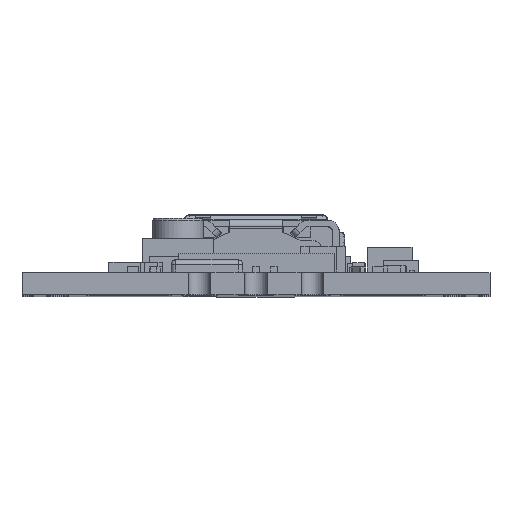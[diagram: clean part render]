
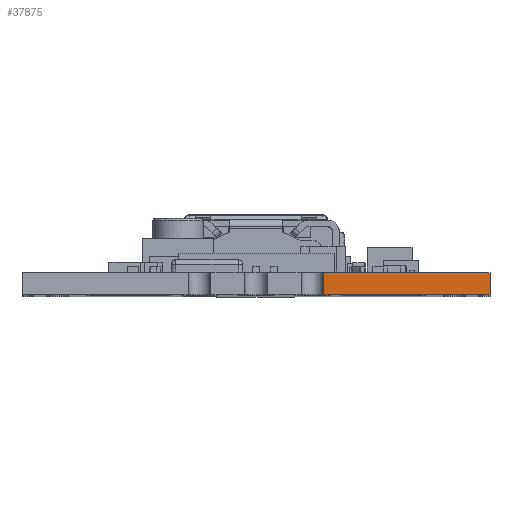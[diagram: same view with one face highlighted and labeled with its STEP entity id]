
A CAD part, top view. The second image highlights one B-rep face of the part: STEP entity #37875.
In plain terms, the highlighted planar face has unit normal (0, 0, 1).
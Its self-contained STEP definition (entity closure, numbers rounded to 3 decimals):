
#4180=FACE_OUTER_BOUND('',#6487,.T.);
#6487=EDGE_LOOP('',(#25849,#25850,#25851,#25852,#25853,#25854,#25855,#25856));
#8954=LINE('',#57056,#12716);
#8956=LINE('',#57063,#12718);
#8957=LINE('',#57065,#12719);
#8958=LINE('',#57067,#12720);
#8959=LINE('',#57069,#12721);
#8960=LINE('',#57071,#12722);
#8961=LINE('',#57072,#12723);
#8962=LINE('',#57073,#12724);
#12716=VECTOR('',#45380,1000.);
#12718=VECTOR('',#45386,1000.);
#12719=VECTOR('',#45387,1000.);
#12720=VECTOR('',#45388,1000.);
#12721=VECTOR('',#45389,1000.);
#12722=VECTOR('',#45390,1000.);
#12723=VECTOR('',#45391,1000.);
#12724=VECTOR('',#45392,1000.);
#16541=VERTEX_POINT('',#57052);
#16543=VERTEX_POINT('',#57055);
#16545=VERTEX_POINT('',#57061);
#16546=VERTEX_POINT('',#57062);
#16547=VERTEX_POINT('',#57064);
#16548=VERTEX_POINT('',#57066);
#16549=VERTEX_POINT('',#57068);
#16550=VERTEX_POINT('',#57070);
#20133=EDGE_CURVE('',#16541,#16543,#8954,.T.);
#20136=EDGE_CURVE('',#16545,#16546,#8956,.T.);
#20137=EDGE_CURVE('',#16546,#16547,#8957,.T.);
#20138=EDGE_CURVE('',#16547,#16548,#8958,.T.);
#20139=EDGE_CURVE('',#16549,#16548,#8959,.T.);
#20140=EDGE_CURVE('',#16550,#16549,#8960,.T.);
#20141=EDGE_CURVE('',#16550,#16543,#8961,.T.);
#20142=EDGE_CURVE('',#16545,#16541,#8962,.T.);
#25849=ORIENTED_EDGE('',*,*,#20136,.T.);
#25850=ORIENTED_EDGE('',*,*,#20137,.T.);
#25851=ORIENTED_EDGE('',*,*,#20138,.T.);
#25852=ORIENTED_EDGE('',*,*,#20139,.F.);
#25853=ORIENTED_EDGE('',*,*,#20140,.F.);
#25854=ORIENTED_EDGE('',*,*,#20141,.T.);
#25855=ORIENTED_EDGE('',*,*,#20133,.F.);
#25856=ORIENTED_EDGE('',*,*,#20142,.F.);
#36523=PLANE('',#40953);
#37875=ADVANCED_FACE('',(#4180),#36523,.T.);
#40953=AXIS2_PLACEMENT_3D('',#57060,#45384,#45385);
#45380=DIRECTION('',(0.,1.,0.));
#45384=DIRECTION('center_axis',(0.,0.,1.));
#45385=DIRECTION('ref_axis',(1.,0.,0.));
#45386=DIRECTION('',(0.,-1.,0.));
#45387=DIRECTION('',(1.,0.,0.));
#45388=DIRECTION('',(0.,1.,0.));
#45389=DIRECTION('',(1.,0.,0.));
#45390=DIRECTION('',(0.,1.,0.));
#45391=DIRECTION('',(-1.,0.,0.));
#45392=DIRECTION('',(-1.,0.,0.));
#57052=CARTESIAN_POINT('',(3.04,-0.499,25.5));
#57055=CARTESIAN_POINT('',(3.04,0.499,25.5));
#57056=CARTESIAN_POINT('',(3.04,0.5,25.5));
#57060=CARTESIAN_POINT('Origin',(-10.5,-0.5,25.5));
#57061=CARTESIAN_POINT('',(3.34,-0.499,25.5));
#57062=CARTESIAN_POINT('',(3.34,-0.5,25.5));
#57063=CARTESIAN_POINT('',(3.34,-0.499,25.5));
#57064=CARTESIAN_POINT('',(10.5,-0.5,25.5));
#57065=CARTESIAN_POINT('',(-10.5,-0.5,25.5));
#57066=CARTESIAN_POINT('',(10.5,0.5,25.5));
#57067=CARTESIAN_POINT('',(10.5,-0.5,25.5));
#57068=CARTESIAN_POINT('',(3.34,0.5,25.5));
#57069=CARTESIAN_POINT('',(-10.5,0.5,25.5));
#57070=CARTESIAN_POINT('',(3.34,0.499,25.5));
#57071=CARTESIAN_POINT('',(3.34,-3.079,25.5));
#57072=CARTESIAN_POINT('',(-10.5,0.499,25.5));
#57073=CARTESIAN_POINT('',(3.04,-0.499,25.5));
